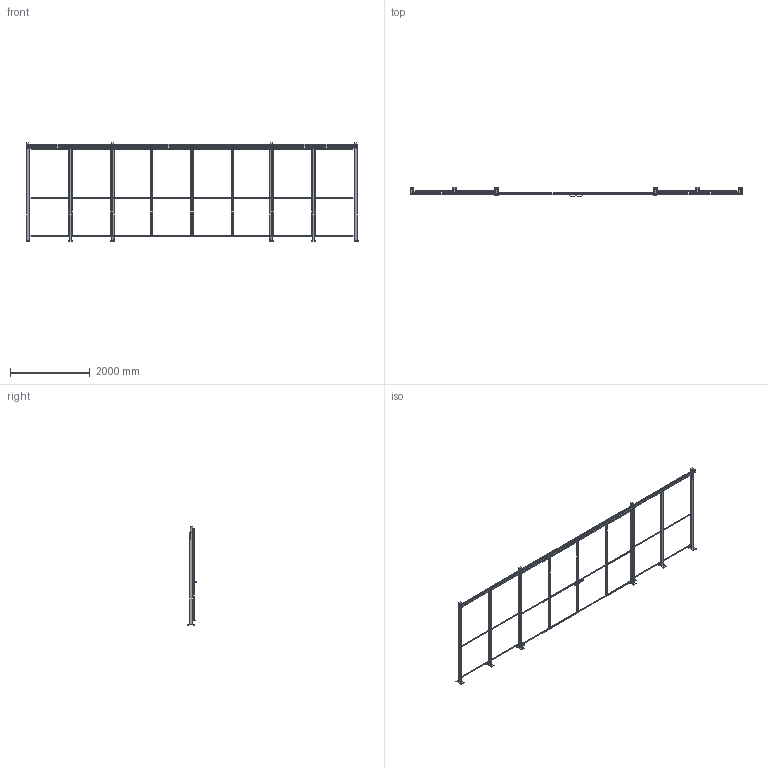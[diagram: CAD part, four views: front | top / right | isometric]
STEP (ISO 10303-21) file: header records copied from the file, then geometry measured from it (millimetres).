
FILE_DESCRIPTION(/* description */ (''),/* implementation_level */ '2;1');
FILE_NAME(/* name */ 'C:\SafeGuarding\ELABORATI\HOR§VED_2025-03-31-13-52-38.stp',/* time_stamp */ '2025-03-31T13:52:41+02:00',/* author */ ('admin'),/* organization */ (''),/* preprocessor_version */ 'ST-DEVELOPER v18.1',/* originating_system */ 'AutoCAD Mechanical',/* authorisation */ '');
FILE_SCHEMA (('AUTOMOTIVE_DESIGN { 1 0 10303 214 3 1 1 }'));
Length unit declared in the file: millimetre
Products named in the file (3): Product; R_VFPA.REPE20.10002200; P_VFMA.V260SDU.2320
Assembly tree (14 placements, depth 2):
  Product
    R_VFPA.REPE20.10002200  x8
    P_VFMA.V260SDU.2320  x6
Bounding box: 8300 x 235.91 x 2454 mm (x, y, z)
Volume: 89783794 mm3; surface area: 12864103.4 mm2
Topology: 84 solids, 106 shells, 874 faces, 3041 edges, 3374 vertices
Faces by surface type: plane 810, cylinder 64
Full cylindrical faces by diameter (mm): 11 x24, 12 x4, 14 x4, 15 x8, 40 x8
Entity records: 17956 total; most frequent: CARTESIAN_POINT 3748, ORIENTED_EDGE 2724, DIRECTION 2681, EDGE_CURVE 1460, LINE 1299, VECTOR 1299, VERTEX_POINT 1056, AXIS2_PLACEMENT_3D 691
